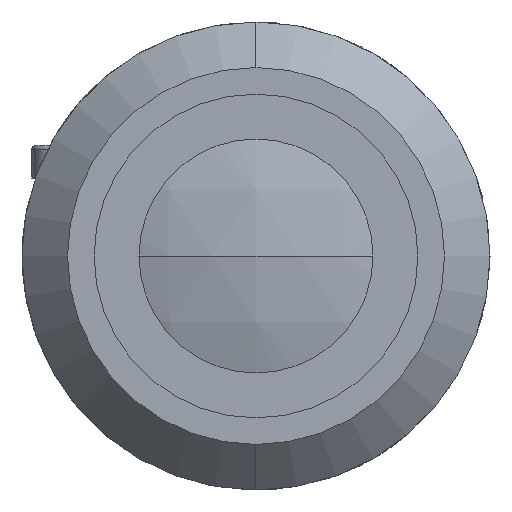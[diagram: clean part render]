
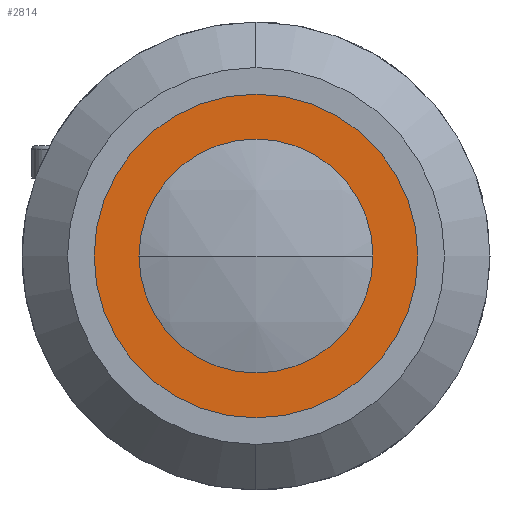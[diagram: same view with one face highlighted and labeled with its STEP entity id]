
A CAD part, left-side view. The second image highlights one B-rep face of the part: STEP entity #2814.
In plain terms, the highlighted planar face has unit normal (-1, 0, 0).
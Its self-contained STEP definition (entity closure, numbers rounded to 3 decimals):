
#158 = CARTESIAN_POINT ( 'NONE',  ( 3.5, 0., 0. ) ) ;
#309 = EDGE_LOOP ( 'NONE', ( #1271, #1298 ) ) ;
#325 = DIRECTION ( 'NONE',  ( 1., 0., 0. ) ) ;
#332 = VERTEX_POINT ( 'NONE', #3570 ) ;
#358 = AXIS2_PLACEMENT_3D ( 'NONE', #158, #2177, #435 ) ;
#366 = CARTESIAN_POINT ( 'NONE',  ( 3.5, 0., 13.2 ) ) ;
#412 = VERTEX_POINT ( 'NONE', #1096 ) ;
#435 = DIRECTION ( 'NONE',  ( 0., 0., 1. ) ) ;
#459 = EDGE_LOOP ( 'NONE', ( #1313, #1351 ) ) ;
#488 = EDGE_CURVE ( 'NONE', #3589, #3603, #3116, .T. ) ;
#642 = EDGE_CURVE ( 'NONE', #412, #332, #2790, .T. ) ;
#717 = EDGE_CURVE ( 'NONE', #332, #412, #2466, .T. ) ;
#894 = CARTESIAN_POINT ( 'NONE',  ( 3.5, 0., 0. ) ) ;
#1096 = CARTESIAN_POINT ( 'NONE',  ( 3.5, 0., 9. ) ) ;
#1192 = DIRECTION ( 'NONE',  ( 0., 0., 1. ) ) ;
#1271 = ORIENTED_EDGE ( 'NONE', *, *, #642, .F. ) ;
#1298 = ORIENTED_EDGE ( 'NONE', *, *, #717, .F. ) ;
#1313 = ORIENTED_EDGE ( 'NONE', *, *, #488, .T. ) ;
#1351 = ORIENTED_EDGE ( 'NONE', *, *, #2411, .T. ) ;
#1358 = DIRECTION ( 'NONE',  ( -1., 0., 0. ) ) ;
#1451 = CARTESIAN_POINT ( 'NONE',  ( 3.5, 0., 0. ) ) ;
#1735 = DIRECTION ( 'NONE',  ( 0., 0., 1. ) ) ;
#1834 = CARTESIAN_POINT ( 'NONE',  ( 3.5, 0., -13.2 ) ) ;
#1897 = FACE_OUTER_BOUND ( 'NONE', #459, .T. ) ;
#1985 = FACE_BOUND ( 'NONE', #309, .T. ) ;
#2058 = CARTESIAN_POINT ( 'NONE',  ( 3.5, 13.2, 0. ) ) ;
#2177 = DIRECTION ( 'NONE',  ( -1., 0., 0. ) ) ;
#2346 = DIRECTION ( 'NONE',  ( 0., 0., -1. ) ) ;
#2411 = EDGE_CURVE ( 'NONE', #3603, #3589, #2560, .T. ) ;
#2466 = CIRCLE ( 'NONE', #2763, 9. ) ;
#2560 = CIRCLE ( 'NONE', #358, 13.2 ) ;
#2633 = AXIS2_PLACEMENT_3D ( 'NONE', #2058, #325, #2346 ) ;
#2763 = AXIS2_PLACEMENT_3D ( 'NONE', #1451, #3366, #1735 ) ;
#2790 = CIRCLE ( 'NONE', #2970, 9. ) ;
#2814 = ADVANCED_FACE ( 'NONE', ( #1985, #1897 ), #3398, .F. ) ;
#2896 = DIRECTION ( 'NONE',  ( -1., 0., 0. ) ) ;
#2970 = AXIS2_PLACEMENT_3D ( 'NONE', #3036, #1358, #3281 ) ;
#3036 = CARTESIAN_POINT ( 'NONE',  ( 3.5, 0., 0. ) ) ;
#3116 = CIRCLE ( 'NONE', #3140, 13.2 ) ;
#3140 = AXIS2_PLACEMENT_3D ( 'NONE', #894, #2896, #1192 ) ;
#3281 = DIRECTION ( 'NONE',  ( 0., 0., 1. ) ) ;
#3366 = DIRECTION ( 'NONE',  ( -1., 0., 0. ) ) ;
#3398 = PLANE ( 'NONE',  #2633 ) ;
#3570 = CARTESIAN_POINT ( 'NONE',  ( 3.5, 0., -9. ) ) ;
#3589 = VERTEX_POINT ( 'NONE', #366 ) ;
#3603 = VERTEX_POINT ( 'NONE', #1834 ) ;
